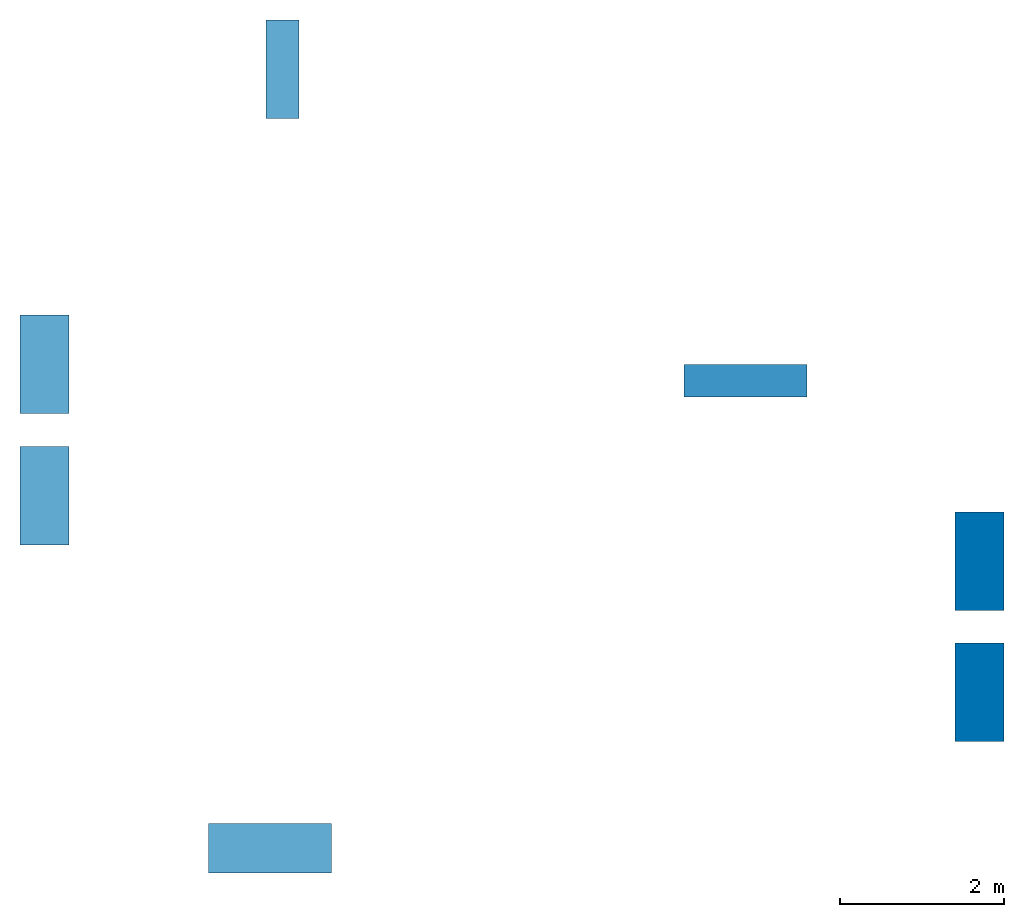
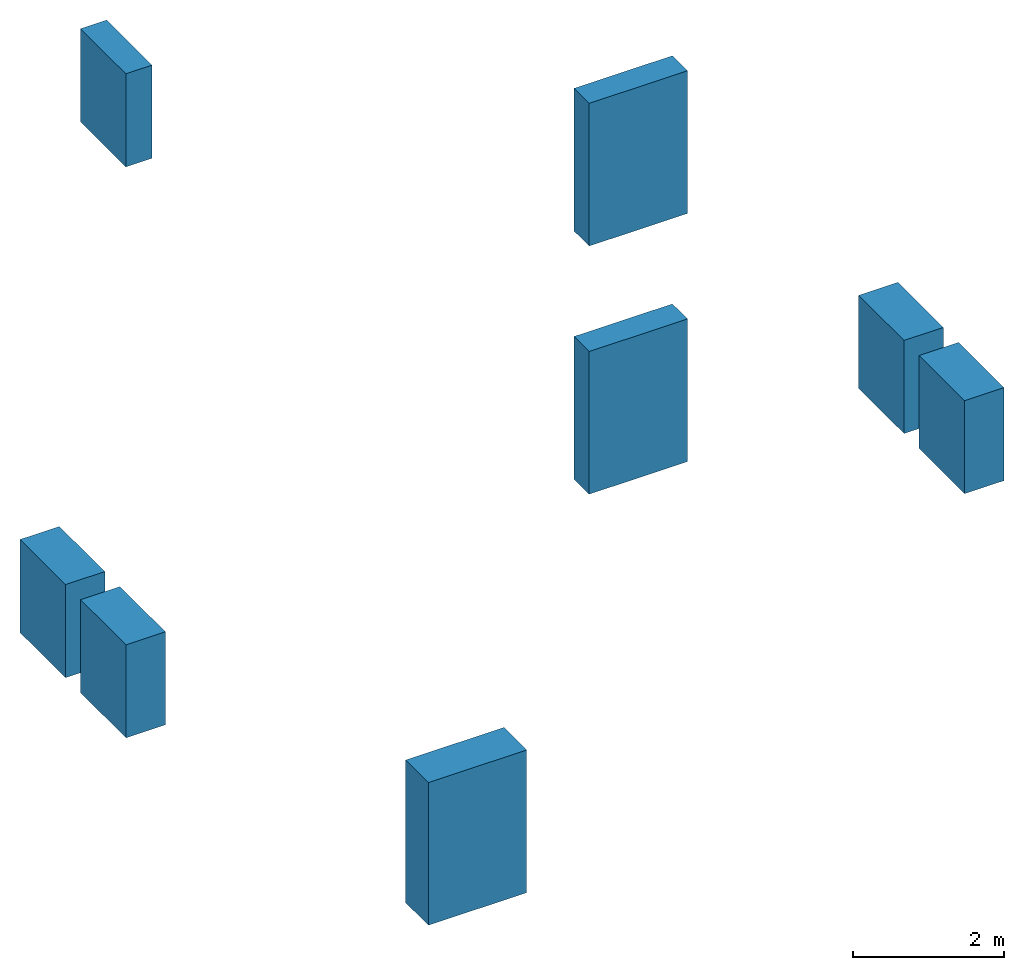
# One storey: 8 walls, 8 elements without a shape of their own.
"""IFC2X3 building model written with IfcOpenShell, lengths in millimetres."""

from ifc_helpers import new_model, si_unit, frame, frame_2d, origin_with_axes, place, context, subcontext, project, spatial, rectangle, extrude, material, type_object, element, aggregate, save


model = new_model("IFC2X3")

# Units and contexts
model_context = context("Model", 3, precision=1e-05, world=origin_with_axes())
body_context = subcontext(model_context, "Body", "Model", "MODEL_VIEW")
ifc_project = project(units=[si_unit("LENGTHUNIT", "METRE", prefix="MILLI"), si_unit("AREAUNIT", "SQUARE_METRE"), si_unit("VOLUMEUNIT", "CUBIC_METRE"), si_unit("MASSUNIT", "GRAM", prefix="KILO"), si_unit("TIMEUNIT", "SECOND"), si_unit("PLANEANGLEUNIT", "RADIAN"), si_unit("SOLIDANGLEUNIT", "STERADIAN"), si_unit("THERMODYNAMICTEMPERATUREUNIT", "DEGREE_CELSIUS"), si_unit("LUMINOUSINTENSITYUNIT", "LUMEN")], contexts=[model_context])

# Site, building, storey
site_placement = place(None, origin_with_axes())
site = spatial("IfcSite", under=ifc_project, at=site_placement, Name="Undefined", CompositionType="ELEMENT")
building_placement = place(site_placement, origin_with_axes())
building = spatial("IfcBuilding", under=site, at=building_placement, Name="Undefined", CompositionType="ELEMENT")
storey_placement = place(building_placement, origin_with_axes())
storey = spatial("IfcBuildingStorey", under=building, at=storey_placement, Name="Undefined", CompositionType="ELEMENT", Elevation=0.0)

# Assembly, wall
assembly_1_placement = place(storey_placement, origin_with_axes())
assembly_1 = element("IfcElementAssembly", 1, at=assembly_1_placement, inside=storey, Name="Wall", AssemblyPlace="NOTDEFINED", PredefinedType="REINFORCEMENT_UNIT")
ifc_material = material(Name="CONCRETE/Opening")
wall_type_1 = type_object("IfcWallType", Name="1500*600", PredefinedType="NOTDEFINED")
wall_1_placement = place(assembly_1_placement, frame((11700.0, 3200.0, 2800.0), z_axis=(0.0, 0.0, 1.0), x_axis=(0.0, 1.0, 0.0)))
wall_1 = element("IfcWall", 2, at=wall_1_placement, type_object=wall_type_1, material=ifc_material, Name="Wall", ObjectType="1500*600", context=body_context, shape_type="SweptSolid", body=[
    extrude(rectangle(XDim=1200.0, YDim=600.0, at=frame_2d((0.0, 600.0), x_axis=(0.0, -1.0))), frame((0.0, 0.0, 0.0), z_axis=(0.0, 0.0, 1.0), x_axis=(0.0, -1.0, 0.0)), (0.0, 0.0, 1.0), 1500.0),
])
aggregate(assembly_1, [wall_1])

assembly_2_placement = place(storey_placement, origin_with_axes())
assembly_2 = element("IfcElementAssembly", 3, at=assembly_2_placement, inside=storey, Name="Wall", AssemblyPlace="NOTDEFINED", PredefinedType="REINFORCEMENT_UNIT")
wall_2_placement = place(assembly_2_placement, frame((11700.0, 1600.0, 2800.0), z_axis=(0.0, 0.0, 1.0), x_axis=(0.0, 1.0, 0.0)))
wall_2 = element("IfcWall", 4, at=wall_2_placement, type_object=wall_type_1, material=ifc_material, Name="Wall", ObjectType="1500*600", context=body_context, shape_type="SweptSolid", body=[
    extrude(rectangle(XDim=1200.0, YDim=600.0, at=frame_2d((0.0, 600.0), x_axis=(0.0, -1.0))), frame((0.0, 0.0, 0.0), z_axis=(0.0, 0.0, 1.0), x_axis=(0.0, -1.0, 0.0)), (0.0, 0.0, 1.0), 1500.0),
])
aggregate(assembly_2, [wall_2])

assembly_3_placement = place(storey_placement, origin_with_axes())
assembly_3 = element("IfcElementAssembly", 5, at=assembly_3_placement, inside=storey, Name="Wall", AssemblyPlace="NOTDEFINED", PredefinedType="REINFORCEMENT_UNIT")
wall_3_placement = place(assembly_3_placement, frame((300.0, 5600.0, 1400.0), z_axis=(0.0, 0.0, 1.0), x_axis=(0.0, 1.0, 0.0)))
wall_3 = element("IfcWall", 6, at=wall_3_placement, type_object=wall_type_1, material=ifc_material, Name="Wall", ObjectType="1500*600", context=body_context, shape_type="SweptSolid", body=[
    extrude(rectangle(XDim=1200.0, YDim=600.0, at=frame_2d((0.0, 600.0), x_axis=(0.0, -1.0))), frame((0.0, 0.0, 0.0), z_axis=(0.0, 0.0, 1.0), x_axis=(0.0, -1.0, 0.0)), (0.0, 0.0, 1.0), 1500.0),
])
aggregate(assembly_3, [wall_3])

assembly_4_placement = place(storey_placement, origin_with_axes())
assembly_4 = element("IfcElementAssembly", 7, at=assembly_4_placement, inside=storey, Name="Wall", AssemblyPlace="NOTDEFINED", PredefinedType="REINFORCEMENT_UNIT")
wall_4_placement = place(assembly_4_placement, frame((300.0, 4000.0, 1400.0), z_axis=(0.0, 0.0, 1.0), x_axis=(0.0, 1.0, 0.0)))
wall_4 = element("IfcWall", 8, at=wall_4_placement, type_object=wall_type_1, material=ifc_material, Name="Wall", ObjectType="1500*600", context=body_context, shape_type="SweptSolid", body=[
    extrude(rectangle(XDim=1200.0, YDim=600.0, at=frame_2d((0.0, 600.0), x_axis=(0.0, -1.0))), frame((0.0, 0.0, 0.0), z_axis=(0.0, 0.0, 1.0), x_axis=(0.0, -1.0, 0.0)), (0.0, 0.0, 1.0), 1500.0),
])
aggregate(assembly_4, [wall_4])

assembly_5_placement = place(storey_placement, origin_with_axes())
assembly_5 = element("IfcElementAssembly", 9, at=assembly_5_placement, inside=storey, Name="Wall", AssemblyPlace="NOTDEFINED", PredefinedType="REINFORCEMENT_UNIT")
wall_type_2 = type_object("IfcWallType", Name="2300*400", PredefinedType="NOTDEFINED")
wall_5_placement = place(assembly_5_placement, frame((9600.0, 6000.0, 5400.0), z_axis=(0.0, 0.0, 1.0), x_axis=(-1.0, 0.0, 0.0)))
wall_5 = element("IfcWall", 10, at=wall_5_placement, type_object=wall_type_2, material=ifc_material, Name="Wall", ObjectType="2300*400", context=body_context, shape_type="SweptSolid", body=[
    extrude(rectangle(XDim=1500.0, YDim=400.0, at=frame_2d((0.0, 750.0), x_axis=(0.0, -1.0))), frame((0.0, 0.0, 0.0), z_axis=(0.0, 0.0, 1.0), x_axis=(0.0, -1.0, 0.0)), (0.0, 0.0, 1.0), 2300.0),
])
aggregate(assembly_5, [wall_5])

assembly_6_placement = place(storey_placement, origin_with_axes())
assembly_6 = element("IfcElementAssembly", 11, at=assembly_6_placement, inside=storey, Name="Wall", AssemblyPlace="NOTDEFINED", PredefinedType="REINFORCEMENT_UNIT")
wall_6_placement = place(assembly_6_placement, frame((9600.0, 6000.0, 1400.0), z_axis=(0.0, 0.0, 1.0), x_axis=(-1.0, 0.0, 0.0)))
wall_6 = element("IfcWall", 12, at=wall_6_placement, type_object=wall_type_2, material=ifc_material, Name="Wall", ObjectType="2300*400", context=body_context, shape_type="SweptSolid", body=[
    extrude(rectangle(XDim=1500.0, YDim=400.0, at=frame_2d((0.0, 750.0), x_axis=(0.0, -1.0))), frame((0.0, 0.0, 0.0), z_axis=(0.0, 0.0, 1.0), x_axis=(0.0, -1.0, 0.0)), (0.0, 0.0, 1.0), 2300.0),
])
aggregate(assembly_6, [wall_6])

assembly_7_placement = place(storey_placement, origin_with_axes())
assembly_7 = element("IfcElementAssembly", 13, at=assembly_7_placement, inside=storey, Name="Wall", AssemblyPlace="NOTDEFINED", PredefinedType="REINFORCEMENT_UNIT")
wall_type_3 = type_object("IfcWallType", Name="1500*400", PredefinedType="NOTDEFINED")
wall_7_placement = place(assembly_7_placement, frame((3200.0, 9200.0, 6400.0), z_axis=(0.0, 0.0, 1.0), x_axis=(0.0, 1.0, 0.0)))
wall_7 = element("IfcWall", 14, at=wall_7_placement, type_object=wall_type_3, material=ifc_material, Name="Wall", ObjectType="1500*400", context=body_context, shape_type="SweptSolid", body=[
    extrude(rectangle(XDim=1200.0, YDim=400.0, at=frame_2d((0.0, 600.0), x_axis=(0.0, -1.0))), frame((0.0, 0.0, 0.0), z_axis=(0.0, 0.0, 1.0), x_axis=(0.0, -1.0, 0.0)), (0.0, 0.0, 1.0), 1500.0),
])
aggregate(assembly_7, [wall_7])

assembly_8_placement = place(storey_placement, origin_with_axes())
assembly_8 = element("IfcElementAssembly", 15, at=assembly_8_placement, inside=storey, Name="Wall", AssemblyPlace="NOTDEFINED", PredefinedType="REINFORCEMENT_UNIT")
wall_type_4 = type_object("IfcWallType", Name="2300*600", PredefinedType="NOTDEFINED")
wall_8_placement = place(assembly_8_placement, frame((3800.0, 299.999999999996, 0.0), z_axis=(0.0, 0.0, 1.0), x_axis=(-1.0, 0.0, 0.0)))
wall_8 = element("IfcWall", 16, at=wall_8_placement, type_object=wall_type_4, material=ifc_material, Name="Wall", ObjectType="2300*600", context=body_context, shape_type="SweptSolid", body=[
    extrude(rectangle(XDim=1500.0, YDim=600.0, at=frame_2d((0.0, 750.0), x_axis=(0.0, -1.0))), frame((0.0, 0.0, 0.0), z_axis=(0.0, 0.0, 1.0), x_axis=(0.0, -1.0, 0.0)), (0.0, 0.0, 1.0), 2300.0),
])
aggregate(assembly_8, [wall_8])

save(model, "model.ifc")
